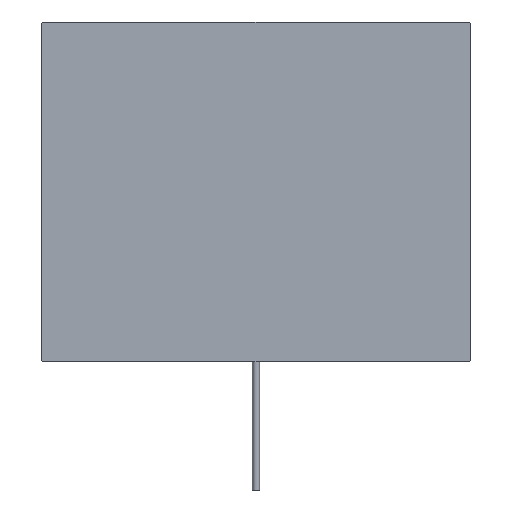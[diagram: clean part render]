
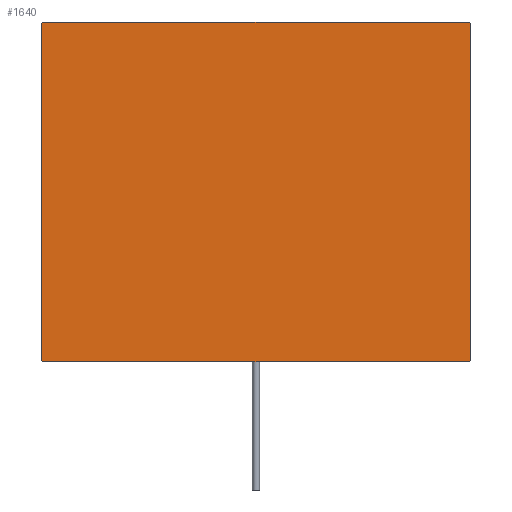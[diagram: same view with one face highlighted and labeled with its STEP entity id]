
A CAD part, front view. The second image highlights one B-rep face of the part: STEP entity #1640.
In plain terms, the highlighted planar face has unit normal (0, -1, 0).
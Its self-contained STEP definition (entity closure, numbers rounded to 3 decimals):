
#437=DIRECTION('',(0.707,0.,0.707));
#438=VECTOR('',#437,0.707);
#439=CARTESIAN_POINT('',(105.5,-14.,-84.));
#440=LINE('',#439,#438);
#441=DIRECTION('',(1.,0.,0.));
#442=VECTOR('',#441,211.);
#443=CARTESIAN_POINT('',(-105.5,-14.,-84.));
#444=LINE('',#443,#442);
#445=DIRECTION('',(0.707,0.,-0.707));
#446=VECTOR('',#445,0.707);
#447=CARTESIAN_POINT('',(-106.,-14.,-83.5));
#448=LINE('',#447,#446);
#449=DIRECTION('',(0.,0.,-1.));
#450=VECTOR('',#449,167.);
#451=CARTESIAN_POINT('',(-106.,-14.,83.5));
#452=LINE('',#451,#450);
#453=DIRECTION('',(-0.707,0.,-0.707));
#454=VECTOR('',#453,0.707);
#455=CARTESIAN_POINT('',(-105.5,-14.,84.));
#456=LINE('',#455,#454);
#457=DIRECTION('',(-1.,0.,0.));
#458=VECTOR('',#457,211.);
#459=CARTESIAN_POINT('',(105.5,-14.,84.));
#460=LINE('',#459,#458);
#461=DIRECTION('',(-0.707,0.,0.707));
#462=VECTOR('',#461,0.707);
#463=CARTESIAN_POINT('',(106.,-14.,83.5));
#464=LINE('',#463,#462);
#465=DIRECTION('',(0.,0.,1.));
#466=VECTOR('',#465,167.);
#467=CARTESIAN_POINT('',(106.,-14.,-83.5));
#468=LINE('',#467,#466);
#935=CARTESIAN_POINT('',(105.5,-14.,-84.));
#936=CARTESIAN_POINT('',(106.,-14.,-83.5));
#937=VERTEX_POINT('',#935);
#938=VERTEX_POINT('',#936);
#939=CARTESIAN_POINT('',(-106.,-14.,-83.5));
#940=CARTESIAN_POINT('',(-105.5,-14.,-84.));
#941=VERTEX_POINT('',#939);
#942=VERTEX_POINT('',#940);
#943=CARTESIAN_POINT('',(-105.5,-14.,84.));
#944=CARTESIAN_POINT('',(-106.,-14.,83.5));
#945=VERTEX_POINT('',#943);
#946=VERTEX_POINT('',#944);
#947=CARTESIAN_POINT('',(106.,-14.,83.5));
#948=CARTESIAN_POINT('',(105.5,-14.,84.));
#949=VERTEX_POINT('',#947);
#950=VERTEX_POINT('',#948);
#1625=CARTESIAN_POINT('',(0.,-14.,0.));
#1626=DIRECTION('',(0.,-1.,0.));
#1627=DIRECTION('',(1.,0.,0.));
#1628=AXIS2_PLACEMENT_3D('',#1625,#1626,#1627);
#1629=PLANE('',#1628);
#1630=ORIENTED_EDGE('',*,*,#1615,.F.);
#1631=ORIENTED_EDGE('',*,*,#1496,.F.);
#1632=ORIENTED_EDGE('',*,*,#1520,.F.);
#1633=ORIENTED_EDGE('',*,*,#1537,.F.);
#1634=ORIENTED_EDGE('',*,*,#1552,.F.);
#1635=ORIENTED_EDGE('',*,*,#1569,.F.);
#1636=ORIENTED_EDGE('',*,*,#1584,.F.);
#1637=ORIENTED_EDGE('',*,*,#1601,.F.);
#1638=EDGE_LOOP('',(#1630,#1631,#1632,#1633,#1634,#1635,#1636,#1637));
#1639=FACE_OUTER_BOUND('',#1638,.F.);
#1496=EDGE_CURVE('',#942,#937,#444,.T.);
#1520=EDGE_CURVE('',#941,#942,#448,.T.);
#1537=EDGE_CURVE('',#946,#941,#452,.T.);
#1552=EDGE_CURVE('',#945,#946,#456,.T.);
#1569=EDGE_CURVE('',#950,#945,#460,.T.);
#1584=EDGE_CURVE('',#949,#950,#464,.T.);
#1601=EDGE_CURVE('',#938,#949,#468,.T.);
#1615=EDGE_CURVE('',#937,#938,#440,.T.);
#1640=ADVANCED_FACE('',(#1639),#1629,.T.);
